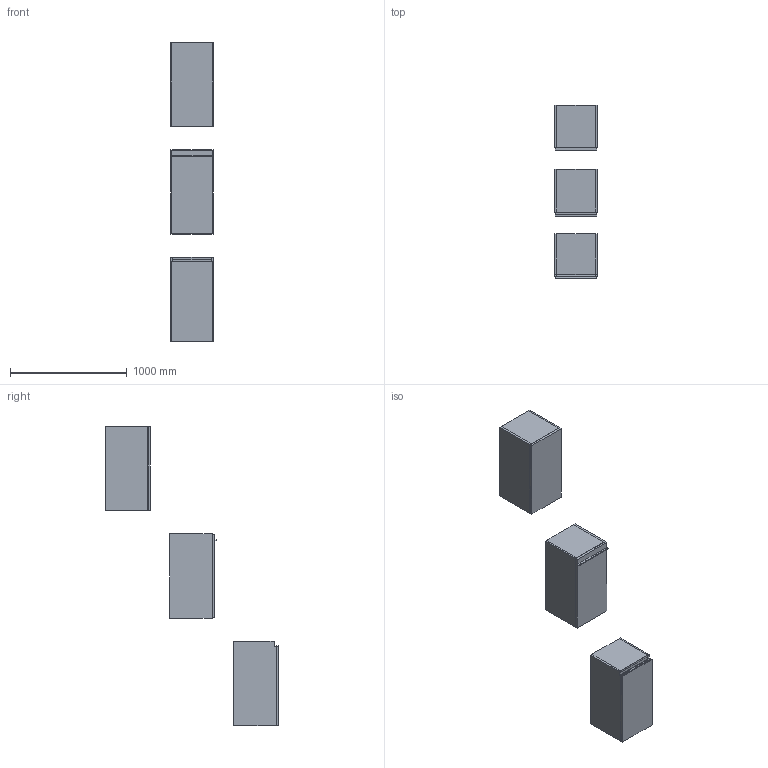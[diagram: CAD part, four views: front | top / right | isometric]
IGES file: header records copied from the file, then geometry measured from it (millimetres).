
Start section: Data from Parasolid IGES Translator 19.0.9, Copyright(c) 2006 Siemens PL M Software. All Rights Reserved.
Global section: file name: noorth-SI-H 72 D 38,8 W 36_8605.igs; native system: By Siemens PLM Incorporated; preprocessor: XPlus GENERIC/IGES 19.0.9; author: Noname; organization: Noname; date: 20200601.115720; units: metre
Bounding box: 360.01 x 1485.1 x 2560.01 mm (x, y, z)
Volume: 53010996.9 mm3; surface area: 7987431.9 mm2
Topology: 20 solids, 20 shells, 178 faces, 382 edges, 234 vertices
Faces by surface type: plane 134, extrusion 16, bspline 16, cylinder 12
